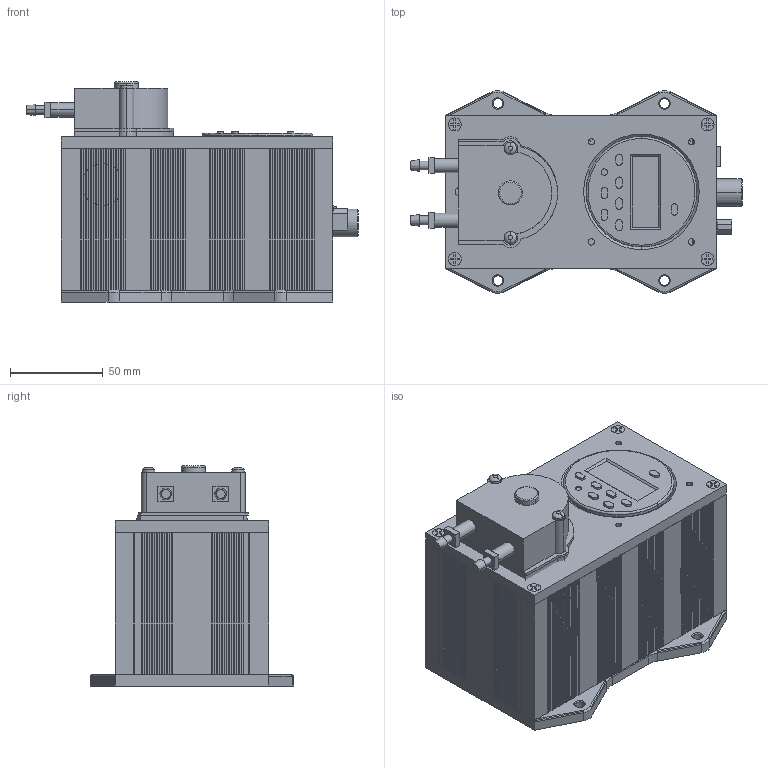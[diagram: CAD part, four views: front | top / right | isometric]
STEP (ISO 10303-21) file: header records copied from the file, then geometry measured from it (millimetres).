
FILE_DESCRIPTION(('STEP AP214'),'1');
FILE_NAME('GBX_Hennkwell_Brushed_Timer_200_Head_STEP.stp','2025-06-07T20:20:17',('Scott Beresford'),('Simply Pumps'),'Spatial InterOp 3D',' ',' ');
FILE_SCHEMA(('AUTOMOTIVE_DESIGN { 1 0 10303 214 1 1 1 1 }'));
Length unit declared in the file: inch
Products named in the file (1): Part_5417652
Bounding box: 178.56 x 109.22 x 118.38 mm (x, y, z)
Volume: 322985 mm3; surface area: 177471.2 mm2
Topology: 25 solids, 25 shells, 1797 faces, 4936 edges, 3212 vertices
Faces by surface type: plane 1460, cylinder 209, cone 100, torus 28
Entity records: 71209 total; most frequent: CARTESIAN_POINT 10026, ORIENTED_EDGE 9872, DIRECTION 9306, EDGE_CURVE 4936, LINE 4204, VECTOR 4204, VERTEX_POINT 3212, AXIS2_PLACEMENT_3D 2551
